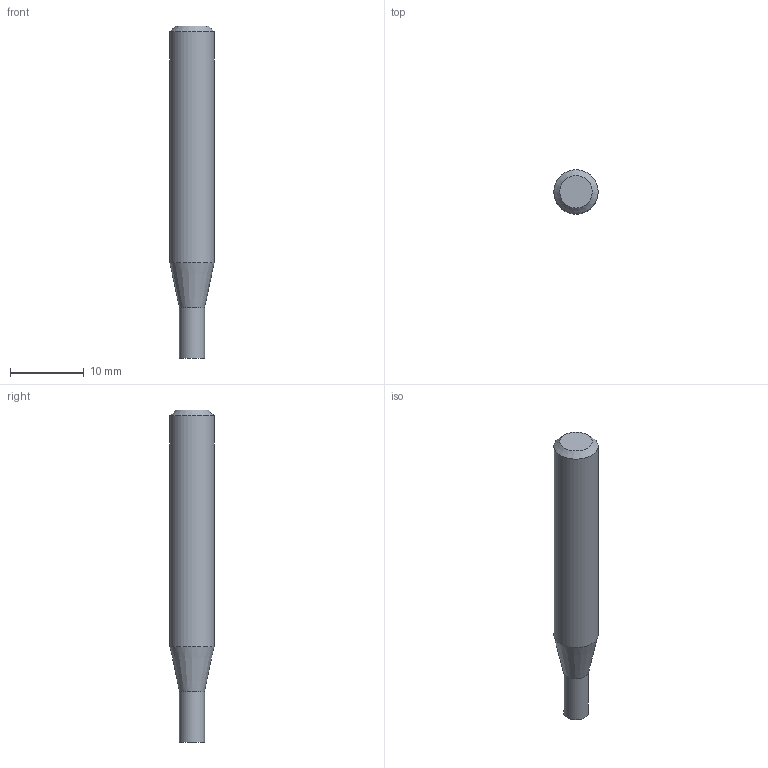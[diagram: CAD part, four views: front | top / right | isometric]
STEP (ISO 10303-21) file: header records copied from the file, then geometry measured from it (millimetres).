
FILE_DESCRIPTION((''),'2;1');
FILE_NAME('C:\Users\nsx150\AppData\Local\Temp\Mastercam 2021\E36A1X9CCL\TEMP.step','2023-04-21T15:12:45',(''),(''),'STEP Write','Mastercam 2021 ... CNC Software, Inc.','');
FILE_SCHEMA(('AUTOMOTIVE_DESIGN'));
Length unit declared in the file: millimetre
Products named in the file (1): None
Bounding box: 6 x 6 x 45 mm (x, y, z)
Volume: 1072.2 mm3; surface area: 815.6 mm2
Topology: 2 solids, 2 shells, 8 faces, 10 edges, 6 vertices
Faces by surface type: plane 4, cylinder 2, cone 2
Full cylindrical faces by diameter (mm): 3.4 x1, 6 x1
Entity records: 190 total; most frequent: DIRECTION 32, CARTESIAN_POINT 22, AXIS2_PLACEMENT_3D 16, ORIENTED_EDGE 12, EDGE_LOOP 12, STYLED_ITEM 11, ADVANCED_FACE 8, VERTEX_POINT 6
